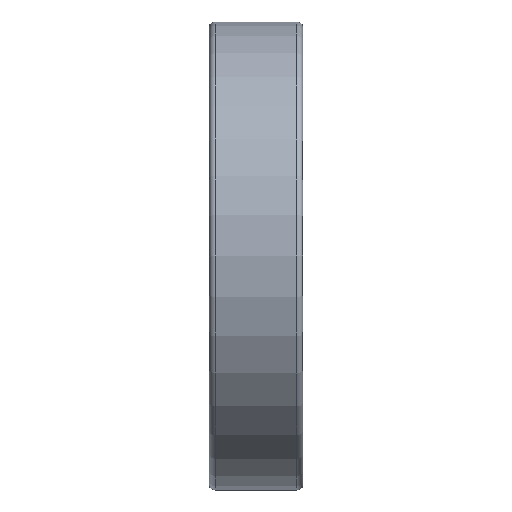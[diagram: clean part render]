
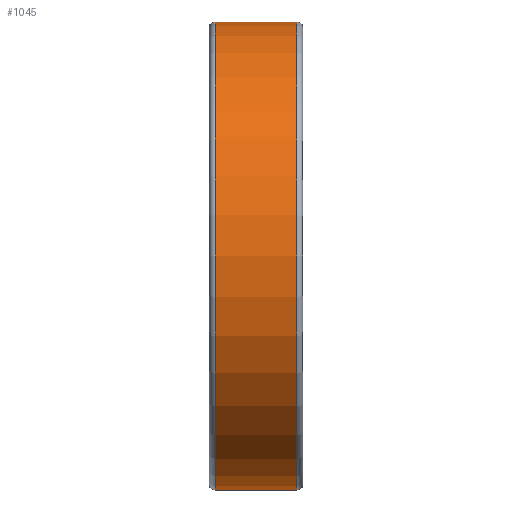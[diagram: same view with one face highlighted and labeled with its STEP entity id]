
A CAD part, front view. The second image highlights one B-rep face of the part: STEP entity #1045.
In plain terms, the highlighted cylindrical face has radius 40 mm (diameter 80 mm), a full revolution.
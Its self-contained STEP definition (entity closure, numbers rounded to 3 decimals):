
#52=LINE('',#2010,#58);
#58=VECTOR('',#1633,40.);
#64=CYLINDRICAL_SURFACE('',#1262,40.);
#164=FACE_OUTER_BOUND('',#247,.T.);
#247=EDGE_LOOP('',(#932,#933,#934,#935,#936,#937));
#384=CIRCLE('',#1257,40.);
#385=CIRCLE('',#1258,40.);
#388=CIRCLE('',#1263,40.);
#389=CIRCLE('',#1264,40.);
#547=VERTEX_POINT('',#1998);
#548=VERTEX_POINT('',#1999);
#550=VERTEX_POINT('',#2007);
#551=VERTEX_POINT('',#2008);
#680=EDGE_CURVE('',#547,#548,#384,.T.);
#681=EDGE_CURVE('',#548,#547,#385,.T.);
#684=EDGE_CURVE('',#550,#551,#388,.T.);
#685=EDGE_CURVE('',#550,#548,#52,.T.);
#686=EDGE_CURVE('',#551,#550,#389,.T.);
#932=ORIENTED_EDGE('',*,*,#684,.F.);
#933=ORIENTED_EDGE('',*,*,#685,.T.);
#934=ORIENTED_EDGE('',*,*,#680,.F.);
#935=ORIENTED_EDGE('',*,*,#681,.F.);
#936=ORIENTED_EDGE('',*,*,#685,.F.);
#937=ORIENTED_EDGE('',*,*,#686,.F.);
#1045=ADVANCED_FACE('',(#164),#64,.T.);
#1257=AXIS2_PLACEMENT_3D('',#2000,#1619,#1620);
#1258=AXIS2_PLACEMENT_3D('',#2001,#1621,#1622);
#1262=AXIS2_PLACEMENT_3D('',#2006,#1629,#1630);
#1263=AXIS2_PLACEMENT_3D('',#2009,#1631,#1632);
#1264=AXIS2_PLACEMENT_3D('',#2011,#1634,#1635);
#1619=DIRECTION('center_axis',(-1.,0.,0.));
#1620=DIRECTION('ref_axis',(0.,-1.,0.));
#1621=DIRECTION('center_axis',(-1.,0.,0.));
#1622=DIRECTION('ref_axis',(0.,-1.,0.));
#1629=DIRECTION('center_axis',(1.,0.,0.));
#1630=DIRECTION('ref_axis',(0.,1.,0.));
#1631=DIRECTION('center_axis',(1.,0.,0.));
#1632=DIRECTION('ref_axis',(0.,-1.,0.));
#1633=DIRECTION('',(-1.,0.,0.));
#1634=DIRECTION('center_axis',(1.,0.,0.));
#1635=DIRECTION('ref_axis',(0.,-1.,0.));
#1998=CARTESIAN_POINT('',(1.,0.,40.));
#1999=CARTESIAN_POINT('',(1.,-40.,0.));
#2000=CARTESIAN_POINT('Origin',(1.,0.,0.));
#2001=CARTESIAN_POINT('Origin',(1.,0.,0.));
#2006=CARTESIAN_POINT('Origin',(8.,0.,0.));
#2007=CARTESIAN_POINT('',(15.,-40.,0.));
#2008=CARTESIAN_POINT('',(15.,0.,40.));
#2009=CARTESIAN_POINT('Origin',(15.,0.,0.));
#2010=CARTESIAN_POINT('',(8.,-40.,0.));
#2011=CARTESIAN_POINT('Origin',(15.,0.,0.));
